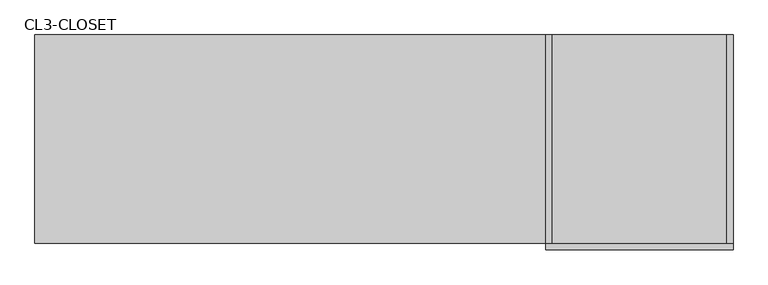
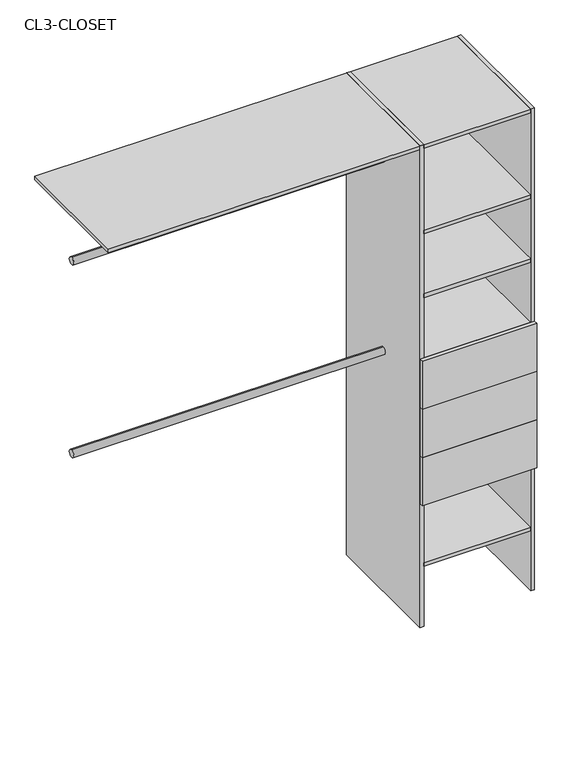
"""IFC4 building model written with IfcOpenShell, lengths in millimetres: furniture geometry, Closet 1estantes-1tubos_sin laterales : CL3-CLOSET."""

from ifc_helpers import new_model, si_unit, point, frame, frame_2d, origin, origin_with_axes, place, context, project, spatial, polyline, circle_curve, trimmed, segment, composite_curve, outline, extrude, source, transform, mapped, element, save


def cl3_closet_a3c0aced(model_context):
    return source(origin(), model_context, "Body", "SweptSolid", [
        extrude(outline(polyline([(225.0, 100.0), (210.0, 100.0), (210.0, 600.0), (225.0, 600.0), (225.0, 100.0)])), origin_with_axes(), (0.0, 0.0, 1.0), 2000.0),
        extrude(outline(polyline([(-210.0, 100.0), (-225.0, 100.0), (-225.0, 600.0), (-210.0, 600.0), (-210.0, 100.0)])), origin_with_axes(), (0.0, 0.0, 1.0), 2000.0),
        extrude(outline(polyline([(225.0, 100.0), (225.0, 85.0), (-225.0, 85.0), (-225.0, 100.0), (225.0, 100.0)])), frame((0.0, 0.0, 915.0), z_axis=(0.0, 0.0, 1.0), x_axis=(1.0, 0.0, 0.0)), (0.0, 0.0, 1.0), 200.0),
        extrude(outline(polyline([(225.0, 100.0), (225.0, 85.0), (-225.0, 85.0), (-225.0, 100.0), (225.0, 100.0)])), frame((0.0, 0.0, 715.0), z_axis=(0.0, 0.0, 1.0), x_axis=(1.0, 0.0, 0.0)), (0.0, 0.0, 1.0), 200.0),
        extrude(outline(polyline([(225.0, 100.0), (225.0, 85.0), (-225.0, 85.0), (-225.0, 100.0), (225.0, 100.0)])), frame((0.0, 0.0, 515.0), z_axis=(0.0, 0.0, 1.0), x_axis=(1.0, 0.0, 0.0)), (0.0, 0.0, 1.0), 200.0),
        extrude(outline(polyline([(210.0, 100.0), (-210.0, 100.0), (-210.0, 600.0), (210.0, 600.0), (210.0, 100.0)])), frame((0.0, 0.0, 1100.0), z_axis=(0.0, 0.0, 1.0), x_axis=(1.0, 0.0, 0.0)), (0.0, 0.0, 1.0), 15.0),
        extrude(outline(composite_curve([segment(trimmed(circle_curve(frame_2d((350.0, 1000.0)), 15.0), [point((350.0, 1015.0))], [point((350.0, 985.0))], False, "CARTESIAN"), True, "CONTINUOUS"), segment(trimmed(circle_curve(frame_2d((350.0, 1000.0)), 15.0), [point((350.0, 985.0))], [point((350.0, 1015.0))], False, "CARTESIAN"), True, "CONTINUOUS")], self_intersect=False)), frame((-1450.0, 0.0, 0.0), z_axis=(1.0, 0.0, 0.0), x_axis=(0.0, 1.0, 0.0)), (0.0, 0.0, 1.0), 1225.0),
        extrude(outline(composite_curve([segment(trimmed(circle_curve(frame_2d((350.0, 1800.0)), 15.0), [point((350.0, 1815.0))], [point((350.0, 1785.0))], False, "CARTESIAN"), True, "CONTINUOUS"), segment(trimmed(circle_curve(frame_2d((350.0, 1800.0)), 15.0), [point((350.0, 1785.0))], [point((350.0, 1815.0))], False, "CARTESIAN"), True, "CONTINUOUS")], self_intersect=False)), frame((-1450.0, 0.0, 0.0), z_axis=(1.0, 0.0, 0.0), x_axis=(0.0, 1.0, 0.0)), (0.0, 0.0, 1.0), 1225.0),
        extrude(outline(polyline([(210.0, 100.0), (-210.0, 100.0), (-210.0, 600.0), (210.0, 600.0), (210.0, 100.0)])), frame((0.0, 0.0, 250.0), z_axis=(0.0, 0.0, 1.0), x_axis=(1.0, 0.0, 0.0)), (0.0, 0.0, 1.0), 15.0),
        extrude(outline(polyline([(210.0, 100.0), (-210.0, 100.0), (-210.0, 600.0), (210.0, 600.0), (210.0, 100.0)])), frame((0.0, 0.0, 515.0), z_axis=(0.0, 0.0, 1.0), x_axis=(1.0, 0.0, 0.0)), (0.0, 0.0, 1.0), 15.0),
        extrude(outline(polyline([(210.0, 100.0), (-210.0, 100.0), (-210.0, 600.0), (210.0, 600.0), (210.0, 100.0)])), frame((0.0, 0.0, 1365.0), z_axis=(0.0, 0.0, 1.0), x_axis=(1.0, 0.0, 0.0)), (0.0, 0.0, 1.0), 15.0),
        extrude(outline(polyline([(210.0, 100.0), (-210.0, 100.0), (-210.0, 600.0), (210.0, 600.0), (210.0, 100.0)])), frame((0.0, 0.0, 1630.0), z_axis=(0.0, 0.0, 1.0), x_axis=(1.0, 0.0, 0.0)), (0.0, 0.0, 1.0), 15.0),
        extrude(outline(polyline([(-210.0, 100.0), (-1450.0, 100.0), (-1450.0, 600.0), (-210.0, 600.0), (-210.0, 100.0)])), frame((0.0, 0.0, 1985.0), z_axis=(0.0, 0.0, 1.0), x_axis=(1.0, 0.0, 0.0)), (0.0, 0.0, 1.0), 15.0),
        extrude(outline(polyline([(210.0, 100.0), (-210.0, 100.0), (-210.0, 600.0), (210.0, 600.0), (210.0, 100.0)])), frame((0.0, 0.0, 1985.0), z_axis=(0.0, 0.0, 1.0), x_axis=(1.0, 0.0, 0.0)), (0.0, 0.0, 1.0), 15.0),
    ])


if __name__ == "__main__":
    model = new_model("IFC4")
    model_context = context("Model", 3, world=origin())
    ifc_project = project(units=[si_unit("LENGTHUNIT", "METRE", prefix="MILLI")], contexts=[model_context])
    site = spatial("IfcSite", under=ifc_project)
    building = spatial("IfcBuilding", under=site)
    placement = place(None, origin())
    cl3_closet_shape = cl3_closet_a3c0aced(model_context)
    element("IfcFurniture", 1, ObjectType="Closet 1estantes-1tubos_sin laterales : CL3-CLOSET", at=placement, inside=building, context=model_context, shape_type="MappedRepresentation", body=[
        mapped(cl3_closet_shape, transform((0.0, 0.0, 0.0), x_axis=(1.0, 0.0, 0.0), y_axis=(0.0, 1.0, 0.0), z_axis=(0.0, 0.0, 1.0))),
    ])
    save(model, "model.ifc")
